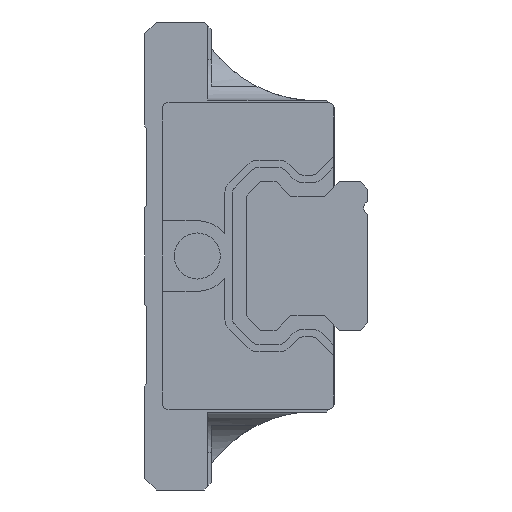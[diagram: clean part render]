
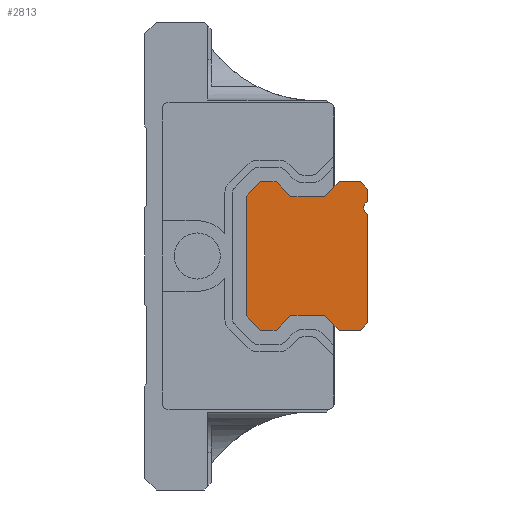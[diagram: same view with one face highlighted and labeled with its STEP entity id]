
A CAD part, left-side view. The second image highlights one B-rep face of the part: STEP entity #2813.
In plain terms, the highlighted planar face has unit normal (-1, 0, 0).
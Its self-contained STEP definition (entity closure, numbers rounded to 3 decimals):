
#79 = EDGE_CURVE ( 'NONE', #20895, #15150, #402, .T. ) ;
#307 = EDGE_CURVE ( 'NONE', #17317, #10016, #10994, .T. ) ;
#402 = LINE ( 'NONE', #16770, #17570 ) ;
#443 = CARTESIAN_POINT ( 'NONE',  ( 0., 14.371, -10. ) ) ;
#620 = CARTESIAN_POINT ( 'NONE',  ( 0., 3.8, 10. ) ) ;
#624 = DIRECTION ( 'NONE',  ( 0., -0.707, -0.707 ) ) ;
#661 = EDGE_CURVE ( 'NONE', #14249, #11175, #6374, .T. ) ;
#796 = DIRECTION ( 'NONE',  ( 0., -0.707, 0.707 ) ) ;
#1276 = LINE ( 'NONE', #15752, #5807 ) ;
#1302 = CARTESIAN_POINT ( 'NONE',  ( 0., 3.8, -10. ) ) ;
#1485 = LINE ( 'NONE', #23591, #5263 ) ;
#1663 = EDGE_CURVE ( 'NONE', #12499, #1783, #1485, .T. ) ;
#1715 = EDGE_CURVE ( 'NONE', #15402, #20871, #11002, .T. ) ;
#1747 = EDGE_CURVE ( 'NONE', #6646, #14177, #20360, .T. ) ;
#1783 = VERTEX_POINT ( 'NONE', #14611 ) ;
#1833 = EDGE_CURVE ( 'NONE', #14177, #20895, #2829, .T. ) ;
#1914 = CARTESIAN_POINT ( 'NONE',  ( 0., 0., 5.634 ) ) ;
#2116 = VERTEX_POINT ( 'NONE', #5447 ) ;
#2200 = DIRECTION ( 'NONE',  ( 0., 0.707, -0.707 ) ) ;
#2300 = LINE ( 'NONE', #22919, #6072 ) ;
#2348 = VERTEX_POINT ( 'NONE', #9248 ) ;
#2553 = DIRECTION ( 'NONE',  ( 1., 0., 0. ) ) ;
#2813 = ADVANCED_FACE ( 'NONE', ( #10744 ), #8946, .F. ) ;
#2829 = LINE ( 'NONE', #15574, #7393 ) ;
#3051 = DIRECTION ( 'NONE',  ( 0., -0.707, 0.707 ) ) ;
#3181 = EDGE_CURVE ( 'NONE', #10016, #6646, #2300, .T. ) ;
#3564 = VECTOR ( 'NONE', #7408, 1000. ) ;
#3635 = DIRECTION ( 'NONE',  ( 0., -1., 0. ) ) ;
#3694 = CARTESIAN_POINT ( 'NONE',  ( 0., 14.371, 10. ) ) ;
#3890 = ORIENTED_EDGE ( 'NONE', *, *, #661, .F. ) ;
#4018 = CARTESIAN_POINT ( 'NONE',  ( 0., -0.5, 6.5 ) ) ;
#4198 = VERTEX_POINT ( 'NONE', #21733 ) ;
#4273 = CARTESIAN_POINT ( 'NONE',  ( 0., 0., 9. ) ) ;
#4520 = LINE ( 'NONE', #620, #8299 ) ;
#5263 = VECTOR ( 'NONE', #19998, 1000. ) ;
#5447 = CARTESIAN_POINT ( 'NONE',  ( 0., 5.8, 8. ) ) ;
#5807 = VECTOR ( 'NONE', #796, 1000. ) ;
#5808 = ORIENTED_EDGE ( 'NONE', *, *, #3181, .F. ) ;
#5972 = CIRCLE ( 'NONE', #15579, 1. ) ;
#5996 = EDGE_CURVE ( 'NONE', #2116, #2348, #1276, .T. ) ;
#6072 = VECTOR ( 'NONE', #19202, 1000. ) ;
#6247 = VECTOR ( 'NONE', #21386, 1000. ) ;
#6302 = CARTESIAN_POINT ( 'NONE',  ( 0., 5.8, -8. ) ) ;
#6374 = LINE ( 'NONE', #22685, #16866 ) ;
#6546 = LINE ( 'NONE', #16012, #23391 ) ;
#6640 = VECTOR ( 'NONE', #9580, 1000. ) ;
#6646 = VERTEX_POINT ( 'NONE', #7541 ) ;
#6904 = ORIENTED_EDGE ( 'NONE', *, *, #11018, .T. ) ;
#7190 = VERTEX_POINT ( 'NONE', #21594 ) ;
#7350 = ORIENTED_EDGE ( 'NONE', *, *, #20087, .F. ) ;
#7393 = VECTOR ( 'NONE', #15457, 1000. ) ;
#7408 = DIRECTION ( 'NONE',  ( 0., 1., 0. ) ) ;
#7541 = CARTESIAN_POINT ( 'NONE',  ( 0., 12.3, -10. ) ) ;
#7881 = CARTESIAN_POINT ( 'NONE',  ( 0., 16.3, -8.071 ) ) ;
#8142 = CARTESIAN_POINT ( 'NONE',  ( 0., 1., 10. ) ) ;
#8279 = ORIENTED_EDGE ( 'NONE', *, *, #9567, .F. ) ;
#8280 = CARTESIAN_POINT ( 'NONE',  ( 0., 12.3, 10. ) ) ;
#8293 = DIRECTION ( 'NONE',  ( 0., 0., -1. ) ) ;
#8299 = VECTOR ( 'NONE', #18906, 1000. ) ;
#8516 = ORIENTED_EDGE ( 'NONE', *, *, #10805, .F. ) ;
#8533 = EDGE_CURVE ( 'NONE', #1783, #17317, #19565, .T. ) ;
#8946 = PLANE ( 'NONE',  #22146 ) ;
#9248 = CARTESIAN_POINT ( 'NONE',  ( 0., 3.8, 10. ) ) ;
#9305 = DIRECTION ( 'NONE',  ( 0., 0., -1. ) ) ;
#9450 = CARTESIAN_POINT ( 'NONE',  ( 0., 12.3, -10. ) ) ;
#9567 = EDGE_CURVE ( 'NONE', #19621, #15402, #21961, .T. ) ;
#9580 = DIRECTION ( 'NONE',  ( 0., -0.707, -0.707 ) ) ;
#9663 = DIRECTION ( 'NONE',  ( 0., 0., -1. ) ) ;
#9787 = ORIENTED_EDGE ( 'NONE', *, *, #16285, .F. ) ;
#10016 = VERTEX_POINT ( 'NONE', #17340 ) ;
#10196 = EDGE_CURVE ( 'NONE', #20871, #2116, #21770, .T. ) ;
#10744 = FACE_OUTER_BOUND ( 'NONE', #11674, .T. ) ;
#10805 = EDGE_CURVE ( 'NONE', #4198, #7190, #15687, .T. ) ;
#10994 = LINE ( 'NONE', #23463, #20640 ) ;
#11002 = LINE ( 'NONE', #18429, #6640 ) ;
#11018 = EDGE_CURVE ( 'NONE', #14249, #7190, #5972, .T. ) ;
#11021 = DIRECTION ( 'NONE',  ( 0., -1., 0. ) ) ;
#11175 = VERTEX_POINT ( 'NONE', #12036 ) ;
#11362 = ORIENTED_EDGE ( 'NONE', *, *, #1663, .F. ) ;
#11674 = EDGE_LOOP ( 'NONE', ( #7350, #16550, #15754, #17953, #5808, #16728, #16834, #11362, #9787, #3890, #6904, #8516, #20790, #13328, #17744, #13265, #22550, #8279 ) ) ;
#11711 = VECTOR ( 'NONE', #2200, 1000. ) ;
#12036 = CARTESIAN_POINT ( 'NONE',  ( 0., 0., -9. ) ) ;
#12460 = VECTOR ( 'NONE', #22628, 1000. ) ;
#12499 = VERTEX_POINT ( 'NONE', #19051 ) ;
#13133 = LINE ( 'NONE', #20458, #11711 ) ;
#13203 = VECTOR ( 'NONE', #11021, 1000. ) ;
#13265 = ORIENTED_EDGE ( 'NONE', *, *, #10196, .F. ) ;
#13328 = ORIENTED_EDGE ( 'NONE', *, *, #16951, .F. ) ;
#13430 = CARTESIAN_POINT ( 'NONE',  ( 0., 14.371, 10. ) ) ;
#13520 = LINE ( 'NONE', #8142, #17942 ) ;
#14177 = VERTEX_POINT ( 'NONE', #443 ) ;
#14249 = VERTEX_POINT ( 'NONE', #1914 ) ;
#14611 = CARTESIAN_POINT ( 'NONE',  ( 0., 3.8, -10. ) ) ;
#15072 = DIRECTION ( 'NONE',  ( 1., 0., 0. ) ) ;
#15150 = VERTEX_POINT ( 'NONE', #20805 ) ;
#15402 = VERTEX_POINT ( 'NONE', #8280 ) ;
#15457 = DIRECTION ( 'NONE',  ( 0., 0.707, 0.707 ) ) ;
#15574 = CARTESIAN_POINT ( 'NONE',  ( 0., 14.371, -10. ) ) ;
#15579 = AXIS2_PLACEMENT_3D ( 'NONE', #17319, #2553, #9663 ) ;
#15687 = LINE ( 'NONE', #4273, #12460 ) ;
#15752 = CARTESIAN_POINT ( 'NONE',  ( 0., 5.8, 8. ) ) ;
#15754 = ORIENTED_EDGE ( 'NONE', *, *, #1833, .F. ) ;
#16012 = CARTESIAN_POINT ( 'NONE',  ( 0., 16.3, 8.071 ) ) ;
#16285 = EDGE_CURVE ( 'NONE', #11175, #12499, #13133, .T. ) ;
#16410 = CARTESIAN_POINT ( 'NONE',  ( 0., 1., 10. ) ) ;
#16550 = ORIENTED_EDGE ( 'NONE', *, *, #79, .F. ) ;
#16728 = ORIENTED_EDGE ( 'NONE', *, *, #307, .F. ) ;
#16770 = CARTESIAN_POINT ( 'NONE',  ( 0., 16.3, -8.071 ) ) ;
#16834 = ORIENTED_EDGE ( 'NONE', *, *, #8533, .F. ) ;
#16866 = VECTOR ( 'NONE', #8293, 1000. ) ;
#16951 = EDGE_CURVE ( 'NONE', #2348, #19967, #4520, .T. ) ;
#17317 = VERTEX_POINT ( 'NONE', #6302 ) ;
#17319 = CARTESIAN_POINT ( 'NONE',  ( 0., -0.5, 6.5 ) ) ;
#17340 = CARTESIAN_POINT ( 'NONE',  ( 0., 10.3, -8. ) ) ;
#17570 = VECTOR ( 'NONE', #18560, 1000. ) ;
#17744 = ORIENTED_EDGE ( 'NONE', *, *, #5996, .F. ) ;
#17942 = VECTOR ( 'NONE', #624, 1000. ) ;
#17953 = ORIENTED_EDGE ( 'NONE', *, *, #1747, .F. ) ;
#18035 = CARTESIAN_POINT ( 'NONE',  ( 0., 10.3, 8. ) ) ;
#18429 = CARTESIAN_POINT ( 'NONE',  ( 0., 12.3, 10. ) ) ;
#18560 = DIRECTION ( 'NONE',  ( 0., 0., 1. ) ) ;
#18906 = DIRECTION ( 'NONE',  ( 0., -1., 0. ) ) ;
#18988 = EDGE_CURVE ( 'NONE', #19967, #4198, #13520, .T. ) ;
#19051 = CARTESIAN_POINT ( 'NONE',  ( 0., 1., -10. ) ) ;
#19202 = DIRECTION ( 'NONE',  ( 0., 0.707, -0.707 ) ) ;
#19565 = LINE ( 'NONE', #1302, #6247 ) ;
#19621 = VERTEX_POINT ( 'NONE', #13430 ) ;
#19734 = VECTOR ( 'NONE', #3635, 1000. ) ;
#19967 = VERTEX_POINT ( 'NONE', #16410 ) ;
#19998 = DIRECTION ( 'NONE',  ( 0., 1., 0. ) ) ;
#20087 = EDGE_CURVE ( 'NONE', #15150, #19621, #6546, .T. ) ;
#20360 = LINE ( 'NONE', #9450, #3564 ) ;
#20458 = CARTESIAN_POINT ( 'NONE',  ( 0., 0., -9. ) ) ;
#20640 = VECTOR ( 'NONE', #23697, 1000. ) ;
#20790 = ORIENTED_EDGE ( 'NONE', *, *, #18988, .F. ) ;
#20805 = CARTESIAN_POINT ( 'NONE',  ( 0., 16.3, 8.071 ) ) ;
#20871 = VERTEX_POINT ( 'NONE', #22502 ) ;
#20895 = VERTEX_POINT ( 'NONE', #7881 ) ;
#21386 = DIRECTION ( 'NONE',  ( 0., 0.707, 0.707 ) ) ;
#21594 = CARTESIAN_POINT ( 'NONE',  ( 0., 0., 7.366 ) ) ;
#21733 = CARTESIAN_POINT ( 'NONE',  ( 0., 0., 9. ) ) ;
#21770 = LINE ( 'NONE', #18035, #19734 ) ;
#21961 = LINE ( 'NONE', #3694, #13203 ) ;
#22146 = AXIS2_PLACEMENT_3D ( 'NONE', #4018, #15072, #9305 ) ;
#22502 = CARTESIAN_POINT ( 'NONE',  ( 0., 10.3, 8. ) ) ;
#22550 = ORIENTED_EDGE ( 'NONE', *, *, #1715, .F. ) ;
#22628 = DIRECTION ( 'NONE',  ( 0., 0., -1. ) ) ;
#22685 = CARTESIAN_POINT ( 'NONE',  ( 0., 0., 5.634 ) ) ;
#22919 = CARTESIAN_POINT ( 'NONE',  ( 0., 10.3, -8. ) ) ;
#23391 = VECTOR ( 'NONE', #3051, 1000. ) ;
#23463 = CARTESIAN_POINT ( 'NONE',  ( 0., 5.8, -8. ) ) ;
#23591 = CARTESIAN_POINT ( 'NONE',  ( 0., 1., -10. ) ) ;
#23697 = DIRECTION ( 'NONE',  ( 0., 1., 0. ) ) ;
